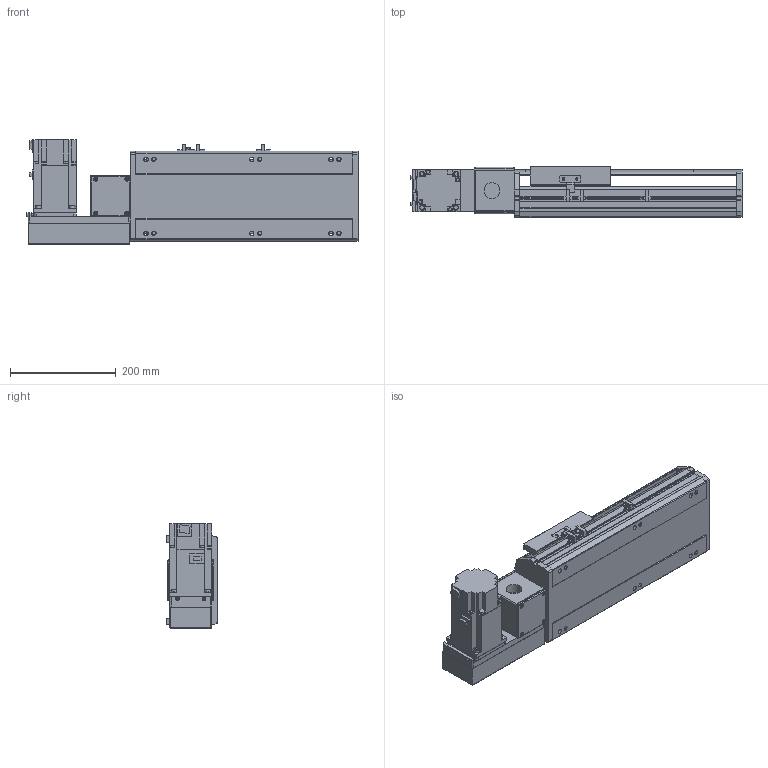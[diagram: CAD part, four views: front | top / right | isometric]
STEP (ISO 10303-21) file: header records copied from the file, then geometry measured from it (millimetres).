
FILE_DESCRIPTION( ( 'STEP AP214' ), '1' );
FILE_NAME( 'x:/temp/worker_4/temp/exporttempdir_2248_190_RhhAk/format_0/PBS170-P40-S150-L-T75-C1-N(0).stp', '2022-06-07T06:33:33', ( 'License CC BY-ND 4.0' ), ( 'CADENAS' ), ' ', 'PARTsolutions', ' ' );
FILE_SCHEMA( ( 'AUTOMOTIVE_DESIGN { 1 0 10303 214 1 1 1 1 }' ) );
Length unit declared in the file: millimetre
Products named in the file (7): PBS170-P40-S150-L-T75-C1-N(0); _PBS170-S150()_body; _PBS170T-L_motors; _T75-p1; _PBS170_sliser; _PBS170_plant; _PBS170_sensor
Assembly tree (8 placements, depth 2):
  PBS170-P40-S150-L-T75-C1-N(0)
    _PBS170-S150()_body
    _PBS170T-L_motors
    _T75-p1
    _PBS170_sliser
    _PBS170_plant
    _PBS170_sensor  x3
Bounding box: 628 x 97 x 197.3 mm (x, y, z)
Volume: 4934500 mm3; surface area: 709228.4 mm2
Topology: 8 solids, 8 shells, 1002 faces, 2675 edges, 1744 vertices
Faces by surface type: plane 657, cylinder 299, cone 36, sphere 8, torus 2
Full cylindrical faces by diameter (mm): 3.242 x4, 4 x2, 4.4 x4, 4.5 x6, 4.917 x4, 6 x9, 6.647 x14, 7 x2, 7.5 x4, 8 x8, 8.5 x6, 10 x4, 10.5 x6, 11 x2, 30 x2, 40 x1, 70 x1
Entity records: 36530 total; most frequent: CARTESIAN_POINT 5381, DIRECTION 4950, ORIENTED_EDGE 4728, EDGE_CURVE 2364, AXIS2_PLACEMENT_3D 1687, VERTEX_POINT 1610, LINE 1576, VECTOR 1576
